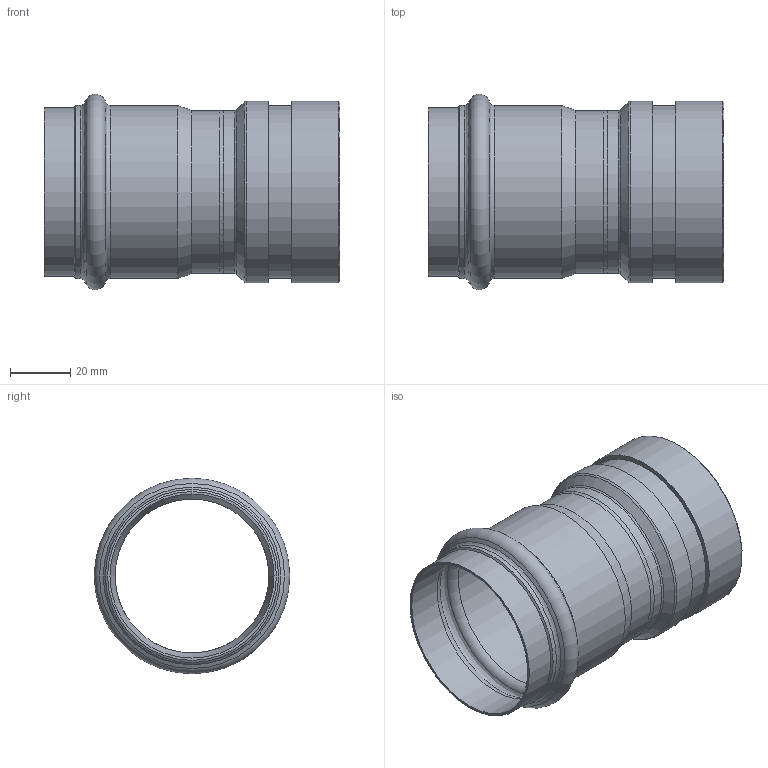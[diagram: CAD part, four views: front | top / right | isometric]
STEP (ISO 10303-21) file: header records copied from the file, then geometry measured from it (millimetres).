
FILE_DESCRIPTION((''),'2;1');
FILE_NAME('G:\Nirosan-Schmiedefeld\Technics\CAD\Bauteile VA\054\6925054603(0).stp','2012-12-04T08:44:00',('herberg'),(''),'Autodesk Inventor 2009','Autodesk Inventor 2009','');
FILE_SCHEMA(('AUTOMOTIVE_DESIGN { 1 0 10303 214 1 1 1 1 }'));
Length unit declared in the file: millimetre
Products named in the file (3): 6925054603(0); HM_6924354(1); sp54603(0)
Assembly tree (2 placements, depth 2):
  6925054603(0)
    HM_6924354(1)
    sp54603(0)
Bounding box: 98 x 64.78 x 64.78 mm (x, y, z)
Volume: 37914.1 mm3; surface area: 38198.9 mm2
Topology: 2 solids, 2 shells, 38 faces, 70 edges, 38 vertices
Faces by surface type: cylinder 13, cone 9, plane 6, torus 5, bspline 5
Full cylindrical faces by diameter (mm): 51 x2, 52.48 x1, 54 x2, 54.35 x2, 55.95 x1, 57.1 x1, 57.35 x2, 60.3 x2
Entity records: 1097 total; most frequent: CARTESIAN_POINT 375, DIRECTION 152, AXIS2_PLACEMENT_3D 76, ORIENTED_EDGE 76, EDGE_LOOP 76, VERTEX_POINT 38, CIRCLE 38, EDGE_CURVE 38
